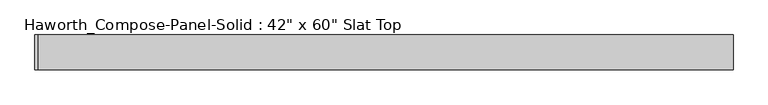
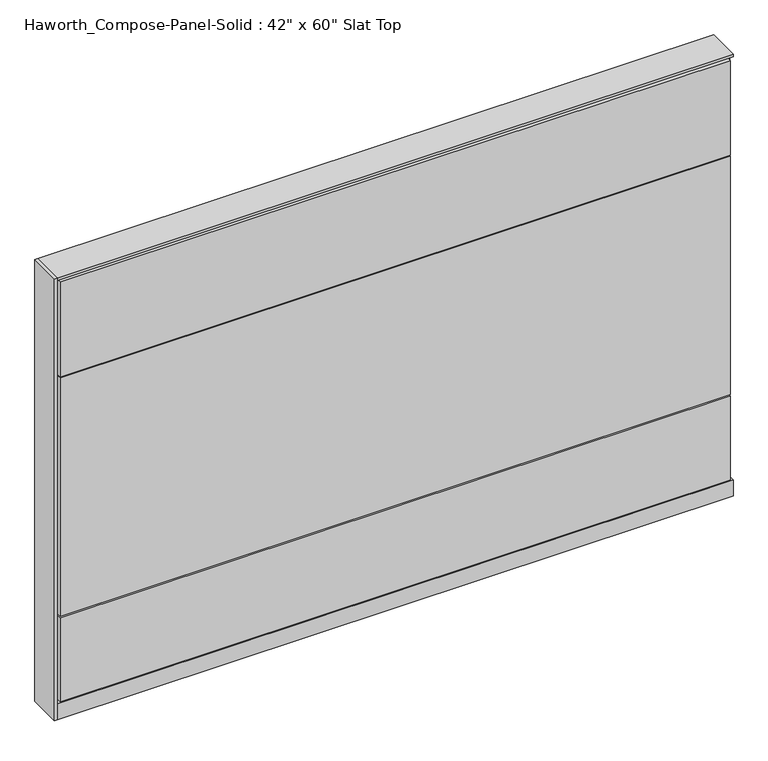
"""IFC4 building model written with IfcOpenShell, lengths in millimetres: furniture geometry."""

from ifc_helpers import new_model, si_unit, point, frame, frame_2d, origin, origin_with_axes, place, context, project, spatial, polyline, circle_curve, trimmed, segment, composite_curve, outline, extrude, source, transform, mapped, element, save


def furniture_9dffe39c(model_context):
    return source(origin(), model_context, "Body", "SweptSolid", [
        extrude(outline(composite_curve([segment(trimmed(circle_curve(frame_2d((-683.3597098, 0.0)), 12.7), [point((-696.0597098, 0.0))], [point((-670.6597098, 0.0))], False, "CARTESIAN"), True, "CONTINUOUS"), segment(trimmed(circle_curve(frame_2d((-683.3597098, 0.0)), 12.7), [point((-670.6597098, 0.0))], [point((-696.0597098, 0.0))], False, "CARTESIAN"), True, "CONTINUOUS")], self_intersect=False)), origin_with_axes(), (0.0, 0.0, 1.0), 12.7),
        extrude(outline(composite_curve([segment(trimmed(circle_curve(frame_2d((688.2402902, 0.0)), 12.7), [point((675.5402902, 0.0))], [point((700.9402902, 0.0))], False, "CARTESIAN"), True, "CONTINUOUS"), segment(trimmed(circle_curve(frame_2d((688.2402902, 0.0)), 12.7), [point((700.9402902, 0.0))], [point((675.5402902, 0.0))], False, "CARTESIAN"), True, "CONTINUOUS")], self_intersect=False)), origin_with_axes(), (0.0, 0.0, 1.0), 12.7),
        extrude(outline(polyline([(-765.9097098, 38.1), (-759.5597098, 38.1), (-759.5597098, -38.1), (-765.9097098, -38.1), (-765.9097098, 38.1)])), frame((0.0, 0.0, 12.7), z_axis=(0.0, 0.0, 1.0), x_axis=(1.0, 0.0, 0.0)), (0.0, 0.0, 1.0), 1054.1),
        extrude(outline(polyline([(758.0902902, 38.1), (758.0902902, 25.4), (-753.2097098, 25.4), (-753.2097098, 38.1), (758.0902902, 38.1)])), frame((0.0, 0.0, 828.675), z_axis=(0.0, 0.0, 1.0), x_axis=(1.0, 0.0, 0.0)), (0.0, 0.0, 1.0), 225.425),
        extrude(outline(polyline([(758.0902902, 38.1), (758.0902902, 25.4), (-753.2097098, 25.4), (-753.2097098, 38.1), (758.0902902, 38.1)])), frame((0.0, 0.0, 257.175), z_axis=(0.0, 0.0, 1.0), x_axis=(1.0, 0.0, 0.0)), (0.0, 0.0, 1.0), 568.325),
        extrude(outline(polyline([(758.0902902, 38.1), (758.0902902, 25.4), (-753.2097098, 25.4), (-753.2097098, 38.1), (758.0902902, 38.1)])), frame((0.0, 0.0, 53.975), z_axis=(0.0, 0.0, 1.0), x_axis=(1.0, 0.0, 0.0)), (0.0, 0.0, 1.0), 200.025),
        extrude(outline(polyline([(758.0902902, -38.1), (-753.2097098, -38.1), (-753.2097098, -25.4), (758.0902902, -25.4), (758.0902902, -38.1)])), frame((0.0, 0.0, 828.675), z_axis=(0.0, 0.0, 1.0), x_axis=(1.0, 0.0, 0.0)), (0.0, 0.0, 1.0), 225.425),
        extrude(outline(polyline([(758.0902902, -38.1), (-753.2097098, -38.1), (-753.2097098, -25.4), (758.0902902, -25.4), (758.0902902, -38.1)])), frame((0.0, 0.0, 257.175), z_axis=(0.0, 0.0, 1.0), x_axis=(1.0, 0.0, 0.0)), (0.0, 0.0, 1.0), 568.325),
        extrude(outline(polyline([(758.0902902, -38.1), (-753.2097098, -38.1), (-753.2097098, -25.4), (758.0902902, -25.4), (758.0902902, -38.1)])), frame((0.0, 0.0, 53.975), z_axis=(0.0, 0.0, 1.0), x_axis=(1.0, 0.0, 0.0)), (0.0, 0.0, 1.0), 200.025),
        extrude(outline(polyline([(764.4402902, 25.4), (764.4402902, -25.4), (-759.5597098, -25.4), (-759.5597098, 25.4), (764.4402902, 25.4)])), frame((0.0, 0.0, 12.7), z_axis=(0.0, 0.0, 1.0), x_axis=(1.0, 0.0, 0.0)), (0.0, 0.0, 1.0), 1047.75),
        extrude(outline(polyline([(-759.5597098, -38.1), (-759.5597098, 38.1), (764.4402902, 38.1), (764.4402902, -38.1), (-759.5597098, -38.1)])), frame((0.0, 0.0, 12.7), z_axis=(0.0, 0.0, 1.0), x_axis=(1.0, 0.0, 0.0)), (0.0, 0.0, 1.0), 38.1),
        extrude(outline(polyline([(-759.5597098, -38.1), (-759.5597098, 38.1), (764.4402902, 38.1), (764.4402902, -38.1), (-759.5597098, -38.1)])), frame((0.0, 0.0, 1060.45), z_axis=(0.0, 0.0, 1.0), x_axis=(1.0, 0.0, 0.0)), (0.0, 0.0, 1.0), 6.35),
    ])


if __name__ == "__main__":
    model = new_model("IFC4")
    model_context = context("Model", 3, world=origin())
    ifc_project = project(units=[si_unit("LENGTHUNIT", "METRE", prefix="MILLI")], contexts=[model_context])
    site = spatial("IfcSite", under=ifc_project)
    building = spatial("IfcBuilding", under=site)
    placement = place(None, origin())
    furniture_shape = furniture_9dffe39c(model_context)
    element("IfcFurniture", 1, ObjectType="Haworth_Compose-Panel-Solid : 42\" x 60\" Slat Top", at=placement, inside=building, context=model_context, shape_type="MappedRepresentation", body=[
        mapped(furniture_shape, transform((0.0, 0.0, 0.0), x_axis=(1.0, 0.0, 0.0), y_axis=(0.0, 1.0, 0.0), z_axis=(0.0, 0.0, 1.0))),
    ])
    save(model, "model.ifc")
